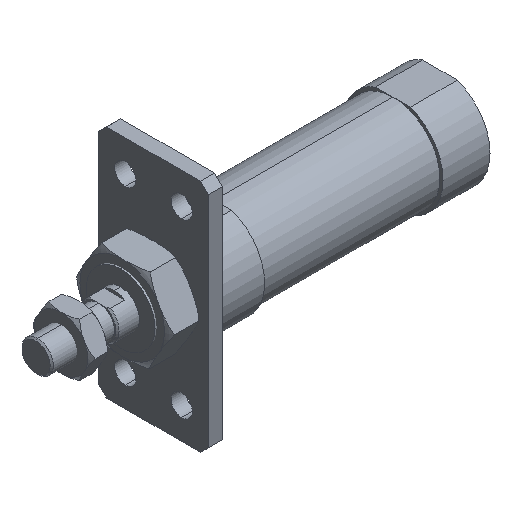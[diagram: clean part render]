
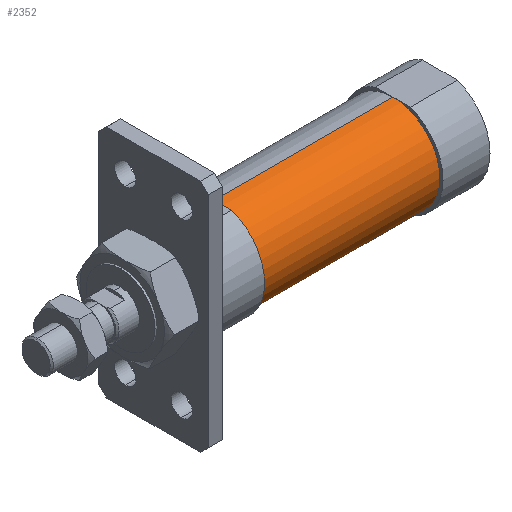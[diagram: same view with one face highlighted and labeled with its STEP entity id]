
A CAD part, isometric view. The second image highlights one B-rep face of the part: STEP entity #2352.
In plain terms, the highlighted cylindrical face has radius 15 mm (diameter 30 mm), a partial arc.
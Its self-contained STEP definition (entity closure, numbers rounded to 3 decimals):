
#175 = AXIS2_PLACEMENT_3D ( 'NONE', #1226, #656, #2770 ) ;
#213 = VERTEX_POINT ( 'NONE', #1715 ) ;
#240 = CARTESIAN_POINT ( 'NONE',  ( 114., 0., 15. ) ) ;
#261 = DIRECTION ( 'NONE',  ( -1., 0., 0. ) ) ;
#404 = ORIENTED_EDGE ( 'NONE', *, *, #2412, .F. ) ;
#499 = LINE ( 'NONE', #1949, #2638 ) ;
#519 = DIRECTION ( 'NONE',  ( 0., 0., 1. ) ) ;
#550 = VERTEX_POINT ( 'NONE', #2184 ) ;
#656 = DIRECTION ( 'NONE',  ( -1., 0., 0. ) ) ;
#675 = CIRCLE ( 'NONE', #1850, 15. ) ;
#793 = AXIS2_PLACEMENT_3D ( 'NONE', #2939, #1432, #519 ) ;
#885 = ORIENTED_EDGE ( 'NONE', *, *, #1427, .F. ) ;
#992 = EDGE_CURVE ( 'NONE', #2766, #550, #3265, .T. ) ;
#1226 = CARTESIAN_POINT ( 'NONE',  ( 57., 0., 0. ) ) ;
#1254 = CYLINDRICAL_SURFACE ( 'NONE', #793, 15. ) ;
#1427 = EDGE_CURVE ( 'NONE', #213, #3589, #499, .T. ) ;
#1432 = DIRECTION ( 'NONE',  ( -1., 0., 0. ) ) ;
#1715 = CARTESIAN_POINT ( 'NONE',  ( 114., 0., -15. ) ) ;
#1850 = AXIS2_PLACEMENT_3D ( 'NONE', #2634, #3224, #3834 ) ;
#1949 = CARTESIAN_POINT ( 'NONE',  ( -6.469, 0., -15. ) ) ;
#2015 = FACE_OUTER_BOUND ( 'NONE', #3056, .T. ) ;
#2045 = CARTESIAN_POINT ( 'NONE',  ( -6.469, 0., 15. ) ) ;
#2147 = DIRECTION ( 'NONE',  ( -1., 0., 0. ) ) ;
#2184 = CARTESIAN_POINT ( 'NONE',  ( 57., 0., 15. ) ) ;
#2352 = ADVANCED_FACE ( 'NONE', ( #2015 ), #1254, .T. ) ;
#2412 = EDGE_CURVE ( 'NONE', #3589, #550, #3342, .T. ) ;
#2453 = ORIENTED_EDGE ( 'NONE', *, *, #992, .T. ) ;
#2634 = CARTESIAN_POINT ( 'NONE',  ( 114., 0., 0. ) ) ;
#2638 = VECTOR ( 'NONE', #2147, 1000. ) ;
#2715 = ORIENTED_EDGE ( 'NONE', *, *, #3916, .T. ) ;
#2766 = VERTEX_POINT ( 'NONE', #240 ) ;
#2770 = DIRECTION ( 'NONE',  ( 0., 0., 1. ) ) ;
#2939 = CARTESIAN_POINT ( 'NONE',  ( -6.469, 0., 0. ) ) ;
#3005 = CARTESIAN_POINT ( 'NONE',  ( 57., 0., -15. ) ) ;
#3056 = EDGE_LOOP ( 'NONE', ( #885, #2715, #2453, #404 ) ) ;
#3224 = DIRECTION ( 'NONE',  ( -1., 0., 0. ) ) ;
#3265 = LINE ( 'NONE', #2045, #3784 ) ;
#3342 = CIRCLE ( 'NONE', #175, 15. ) ;
#3589 = VERTEX_POINT ( 'NONE', #3005 ) ;
#3784 = VECTOR ( 'NONE', #261, 1000. ) ;
#3834 = DIRECTION ( 'NONE',  ( 0., 0., 1. ) ) ;
#3916 = EDGE_CURVE ( 'NONE', #213, #2766, #675, .T. ) ;
